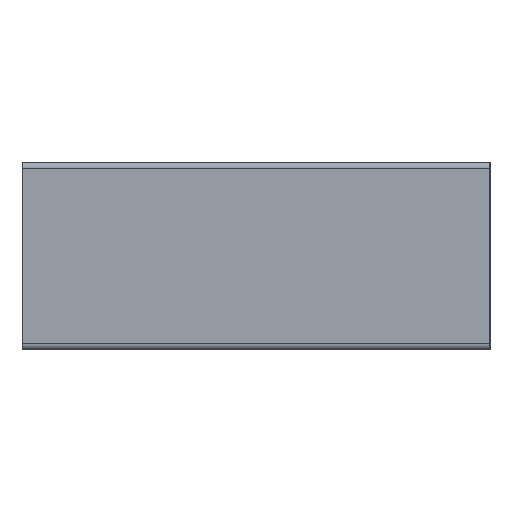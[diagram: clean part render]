
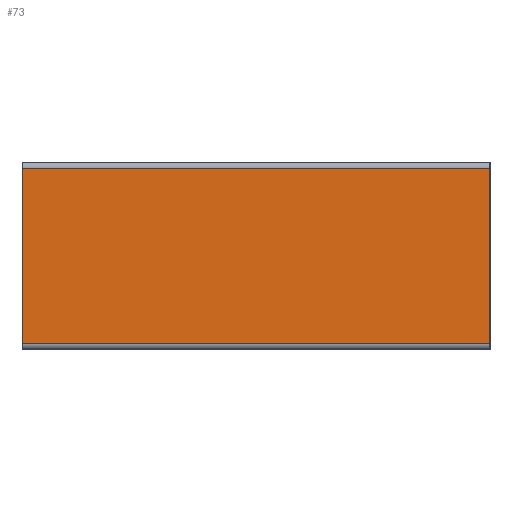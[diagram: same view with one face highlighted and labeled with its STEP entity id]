
A CAD part, left-side view. The second image highlights one B-rep face of the part: STEP entity #73.
In plain terms, the highlighted planar face has unit normal (-1, 0, 0).
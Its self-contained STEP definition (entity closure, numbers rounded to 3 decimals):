
#73=ADVANCED_FACE('',(#173),#174,.F.);
#173=FACE_OUTER_BOUND('',#301,.T.);
#174=PLANE('',#302);
#301=EDGE_LOOP('',(#479,#480,#481,#482));
#302=AXIS2_PLACEMENT_3D('',#483,#484,#485);
#479=ORIENTED_EDGE('',*,*,#819,.T.);
#480=ORIENTED_EDGE('',*,*,#839,.F.);
#481=ORIENTED_EDGE('',*,*,#841,.F.);
#482=ORIENTED_EDGE('',*,*,#842,.T.);
#483=CARTESIAN_POINT('',(0.0,0.,9.7));
#484=DIRECTION('',(1.0,0.0,0.0));
#485=DIRECTION('',(0.0,1.0,0.0));
#819=EDGE_CURVE('',#1001,#999,#1002,.T.);
#839=EDGE_CURVE('',#1031,#999,#1033,.T.);
#841=EDGE_CURVE('',#1035,#1031,#1036,.T.);
#842=EDGE_CURVE('',#1035,#1001,#1037,.T.);
#999=VERTEX_POINT('',#1243);
#1001=VERTEX_POINT('',#1245);
#1002=LINE('',#1246,#1247);
#1031=VERTEX_POINT('',#1286);
#1033=LINE('',#1288,#1289);
#1035=VERTEX_POINT('',#1291);
#1036=LINE('',#1292,#1293);
#1037=LINE('',#1294,#1295);
#1243=CARTESIAN_POINT('',(0.0,25.0,0.3));
#1245=CARTESIAN_POINT('',(0.0,25.0,9.7));
#1246=CARTESIAN_POINT('',(0.0,25.0,9.7));
#1247=VECTOR('',#1523,1.0);
#1286=CARTESIAN_POINT('',(0.0,0.,0.3));
#1288=CARTESIAN_POINT('',(0.0,0.,0.3));
#1289=VECTOR('',#1549,1.0);
#1291=CARTESIAN_POINT('',(0.0,0.,9.7));
#1292=CARTESIAN_POINT('',(0.0,0.,9.7));
#1293=VECTOR('',#1550,1.0);
#1294=CARTESIAN_POINT('',(0.0,0.,9.7));
#1295=VECTOR('',#1551,1.0);
#1523=DIRECTION('',(0.0,0.0,-1.0));
#1549=DIRECTION('',(0.0,1.0,0.0));
#1550=DIRECTION('',(0.0,0.0,-1.0));
#1551=DIRECTION('',(0.0,1.0,0.0));
